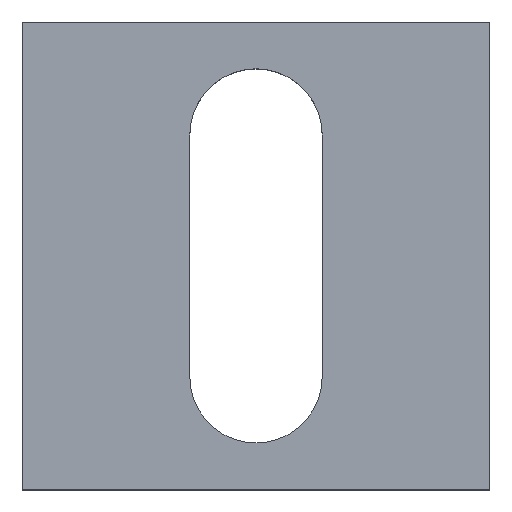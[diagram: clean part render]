
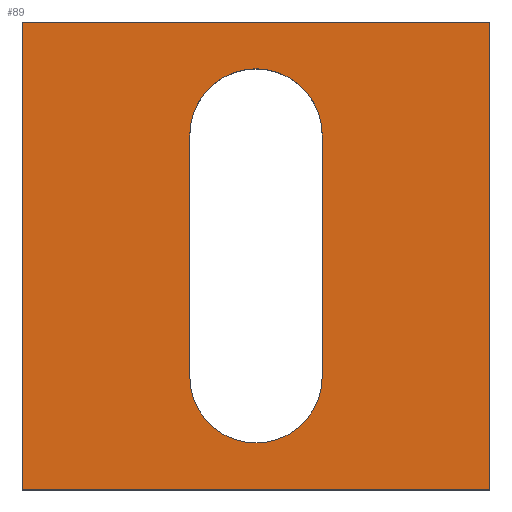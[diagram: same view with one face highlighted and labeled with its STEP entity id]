
A CAD part, top view. The second image highlights one B-rep face of the part: STEP entity #89.
In plain terms, the highlighted planar face has unit normal (0, 0, 1).
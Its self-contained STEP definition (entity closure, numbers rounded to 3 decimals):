
#89=ADVANCED_FACE('',(#233,#235),#237,.T.);
#233=FACE_BOUND('',#234,.T.);
#234=EDGE_LOOP('',(#345,#346,#347,#348));
#235=FACE_BOUND('',#236,.T.);
#236=EDGE_LOOP('',(#349,#350,#351,#352));
#237=PLANE('',#238);
#238=AXIS2_PLACEMENT_3D('',#239,#240,#241);
#239=CARTESIAN_POINT('',(0.,0.,10.));
#240=DIRECTION('',(0.,0.,1.));
#241=DIRECTION('',(-1.,0.,0.));
#345=ORIENTED_EDGE('',*,*,#401,.T.);
#346=ORIENTED_EDGE('',*,*,#387,.T.);
#347=ORIENTED_EDGE('',*,*,#400,.T.);
#348=ORIENTED_EDGE('',*,*,#402,.T.);
#349=ORIENTED_EDGE('',*,*,#403,.T.);
#350=ORIENTED_EDGE('',*,*,#404,.T.);
#351=ORIENTED_EDGE('',*,*,#405,.T.);
#352=ORIENTED_EDGE('',*,*,#406,.T.);
#387=EDGE_CURVE('',#420,#418,#421,.T.);
#400=EDGE_CURVE('',#418,#442,#444,.T.);
#401=EDGE_CURVE('',#445,#420,#446,.T.);
#402=EDGE_CURVE('',#442,#445,#447,.T.);
#403=EDGE_CURVE('',#448,#449,#450,.F.);
#404=EDGE_CURVE('',#449,#451,#452,.F.);
#405=EDGE_CURVE('',#451,#453,#454,.F.);
#406=EDGE_CURVE('',#453,#448,#455,.F.);
#418=VERTEX_POINT('',#472);
#420=VERTEX_POINT('',#476);
#421=LINE('',#477,#478);
#442=VERTEX_POINT('',#527);
#444=LINE('',#531,#532);
#445=VERTEX_POINT('',#534);
#446=LINE('',#535,#536);
#447=LINE('',#538,#539);
#448=VERTEX_POINT('',#541);
#449=VERTEX_POINT('',#542);
#450=CIRCLE('',#543,4.25);
#451=VERTEX_POINT('',#547);
#452=LINE('',#548,#549);
#453=VERTEX_POINT('',#551);
#454=CIRCLE('',#552,4.25);
#455=LINE('',#556,#557);
#472=CARTESIAN_POINT('',(15.,-15.,10.));
#476=CARTESIAN_POINT('',(-15.,-15.,10.));
#477=CARTESIAN_POINT('',(-15.,-15.,10.));
#478=VECTOR('',#479,1.);
#479=DIRECTION('',(1.,0.,0.));
#527=CARTESIAN_POINT('',(15.,15.,10.));
#531=CARTESIAN_POINT('',(15.,-15.,10.));
#532=VECTOR('',#533,1.);
#533=DIRECTION('',(0.,1.,0.));
#534=CARTESIAN_POINT('',(-15.,15.,10.));
#535=CARTESIAN_POINT('',(-15.,15.,10.));
#536=VECTOR('',#537,1.);
#537=DIRECTION('',(0.,-1.,0.));
#538=CARTESIAN_POINT('',(15.,15.,10.));
#539=VECTOR('',#540,1.);
#540=DIRECTION('',(-1.,0.,0.));
#541=CARTESIAN_POINT('',(-4.25,7.75,10.));
#542=CARTESIAN_POINT('',(4.25,7.75,10.));
#543=AXIS2_PLACEMENT_3D('',#544,#545,#546);
#544=CARTESIAN_POINT('',(0.,7.75,10.));
#545=DIRECTION('',(0.,0.,1.));
#546=DIRECTION('',(1.,0.,0.));
#547=CARTESIAN_POINT('',(4.25,-7.75,10.));
#548=CARTESIAN_POINT('',(4.25,-7.75,10.));
#549=VECTOR('',#550,1.);
#550=DIRECTION('',(0.,1.,0.));
#551=CARTESIAN_POINT('',(-4.25,-7.75,10.));
#552=AXIS2_PLACEMENT_3D('',#553,#554,#555);
#553=CARTESIAN_POINT('',(0.,-7.75,10.));
#554=DIRECTION('',(0.,0.,1.));
#555=DIRECTION('',(-1.,0.,0.));
#556=CARTESIAN_POINT('',(-4.25,7.75,10.));
#557=VECTOR('',#558,1.);
#558=DIRECTION('',(0.,-1.,0.));
